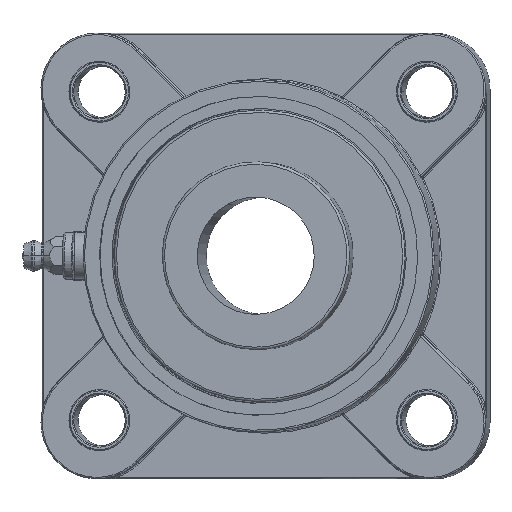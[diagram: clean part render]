
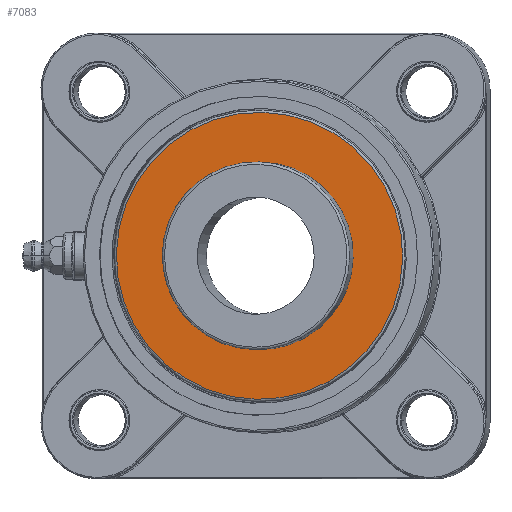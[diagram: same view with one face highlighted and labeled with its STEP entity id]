
A CAD part, top view. The second image highlights one B-rep face of the part: STEP entity #7083.
In plain terms, the highlighted planar face has unit normal (-0.07, 0, 0.998) as drawn and (0, 1, 0) by its records, which use the part's own axes.
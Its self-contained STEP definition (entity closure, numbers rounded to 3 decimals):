
#6981=CARTESIAN_POINT('Vertex',(-9.589,8.,-17.552)) ;
#6984=CARTESIAN_POINT('Axis2P3D Location',(0.,8.,0.)) ;
#6988=CARTESIAN_POINT('Vertex',(9.589,8.,17.552)) ;
#7008=CARTESIAN_POINT('Axis2P3D Location',(0.,8.,0.)) ;
#7025=CARTESIAN_POINT('Axis2P3D Location',(0.,8.,0.)) ;
#7029=CARTESIAN_POINT('Vertex',(14.668,8.,26.849)) ;
#7031=CARTESIAN_POINT('Vertex',(-14.668,8.,-26.849)) ;
#7057=CARTESIAN_POINT('Axis2P3D Location',(0.,8.,0.)) ;
#7070=CARTESIAN_POINT('Axis2P3D Location',(0.,8.,30.594)) ;
#6985=DIRECTION('Axis2P3D Direction',(-0.,1.,0.)) ;
#7009=DIRECTION('Axis2P3D Direction',(-0.,1.,0.)) ;
#7026=DIRECTION('Axis2P3D Direction',(-0.,1.,0.)) ;
#7058=DIRECTION('Axis2P3D Direction',(-0.,1.,0.)) ;
#7071=DIRECTION('Axis2P3D Direction',(0.,1.,0.)) ;
#7072=DIRECTION('Axis2P3D XDirection',(1.,-0.,0.)) ;
#6986=AXIS2_PLACEMENT_3D('Circle Axis2P3D',#6984,#6985,$) ;
#7010=AXIS2_PLACEMENT_3D('Circle Axis2P3D',#7008,#7009,$) ;
#7027=AXIS2_PLACEMENT_3D('Circle Axis2P3D',#7025,#7026,$) ;
#7059=AXIS2_PLACEMENT_3D('Circle Axis2P3D',#7057,#7058,$) ;
#7073=AXIS2_PLACEMENT_3D('Plane Axis2P3D',#7070,#7071,#7072) ;
#7076=ORIENTED_EDGE('',*,*,#7061,.T.) ;
#7077=ORIENTED_EDGE('',*,*,#7033,.T.) ;
#7080=ORIENTED_EDGE('',*,*,#7012,.F.) ;
#7081=ORIENTED_EDGE('',*,*,#6990,.F.) ;
#7082=FACE_BOUND('',#7079,.T.) ;
#7083=ADVANCED_FACE('PartBody',(#7078,#7082),#7074,.T.) ;
#6987=CIRCLE('generated circle',#6986,20.) ;
#7011=CIRCLE('generated circle',#7010,20.) ;
#7028=CIRCLE('generated circle',#7027,30.594) ;
#7060=CIRCLE('generated circle',#7059,30.594) ;
#6990=EDGE_CURVE('',#6982,#6989,#6987,.T.) ;
#7012=EDGE_CURVE('',#6989,#6982,#7011,.T.) ;
#7033=EDGE_CURVE('',#7030,#7032,#7028,.T.) ;
#7061=EDGE_CURVE('',#7032,#7030,#7060,.T.) ;
#7075=EDGE_LOOP('',(#7076,#7077)) ;
#7079=EDGE_LOOP('',(#7080,#7081)) ;
#7078=FACE_OUTER_BOUND('',#7075,.T.) ;
#7074=PLANE('',#7073) ;
#6982=VERTEX_POINT('',#6981) ;
#6989=VERTEX_POINT('',#6988) ;
#7030=VERTEX_POINT('',#7029) ;
#7032=VERTEX_POINT('',#7031) ;
